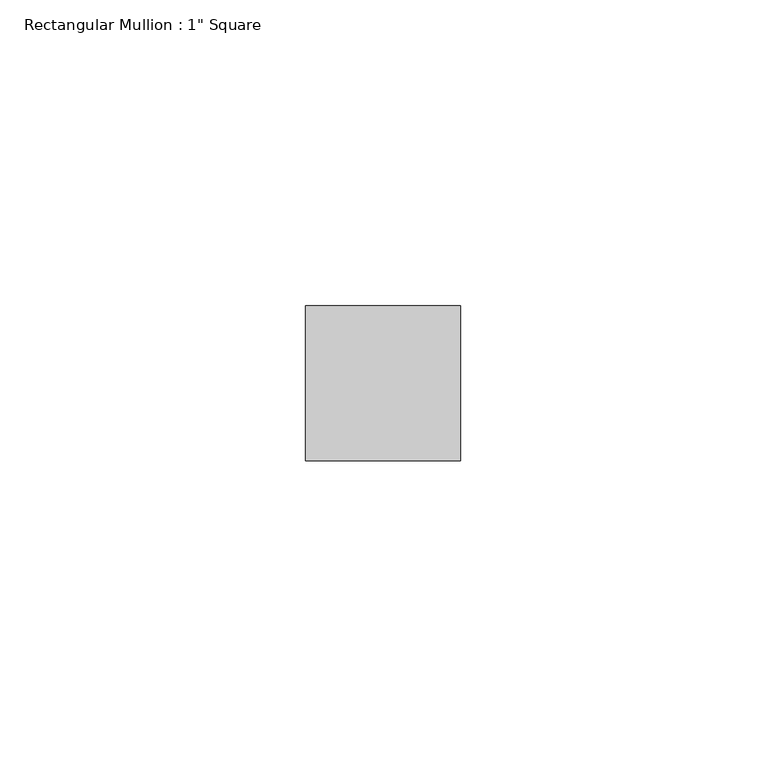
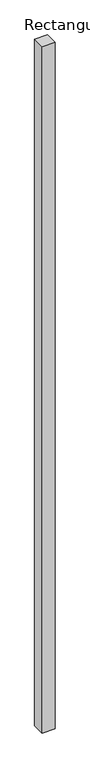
"""IFC4 building model written with IfcOpenShell, lengths in millimetres: member geometry."""

from ifc_helpers import new_model, si_unit, frame, origin, place, context, project, spatial, polyline, outline, extrude, source, transform, mapped, element, save


def member_86c07ba8(model_context):
    return source(origin(), model_context, "Body", "SweptSolid", [
        extrude(outline(polyline([(12.7, 12.7), (12.7, -12.7), (-12.7, -12.7), (-12.7, 12.7), (12.7, 12.7)])), frame((0.0, 0.0, -1421.8303691), z_axis=(0.0, 0.0, 1.0), x_axis=(1.0, 0.0, 0.0)), (0.0, 0.0, 1.0), 1421.8303691),
    ])


if __name__ == "__main__":
    model = new_model("IFC4")
    model_context = context("Model", 3, world=origin())
    ifc_project = project(units=[si_unit("LENGTHUNIT", "METRE", prefix="MILLI")], contexts=[model_context])
    site = spatial("IfcSite", under=ifc_project)
    building = spatial("IfcBuilding", under=site)
    placement = place(None, origin())
    member_shape = member_86c07ba8(model_context)
    element("IfcMember", 1, ObjectType="Rectangular Mullion : 1\" Square", at=placement, inside=building, context=model_context, shape_type="MappedRepresentation", body=[
        mapped(member_shape, transform((0.0, 0.0, 0.0), x_axis=(1.0, 0.0, 0.0), y_axis=(0.0, 1.0, 0.0), z_axis=(0.0, 0.0, 1.0))),
    ])
    save(model, "model.ifc")
